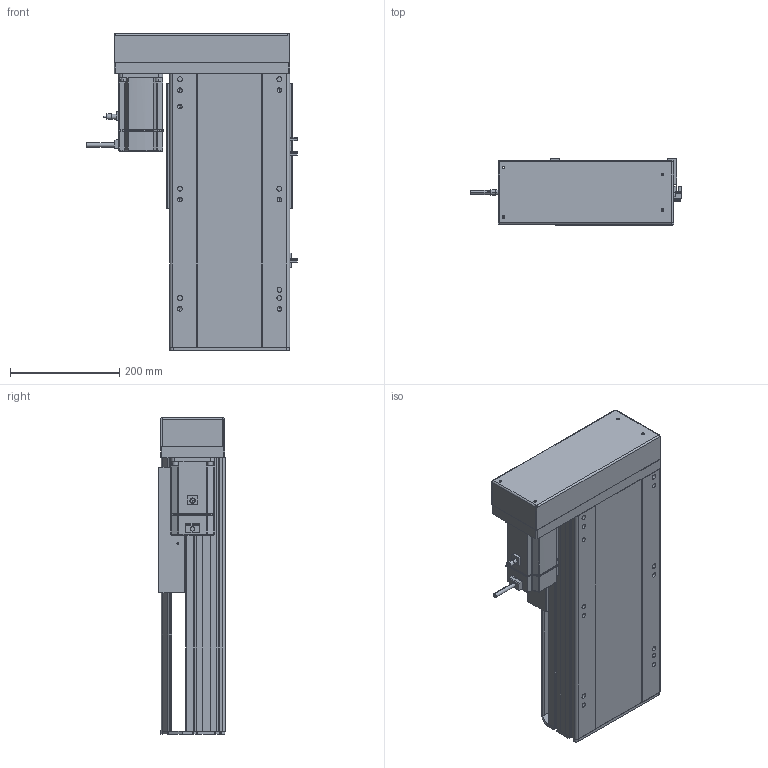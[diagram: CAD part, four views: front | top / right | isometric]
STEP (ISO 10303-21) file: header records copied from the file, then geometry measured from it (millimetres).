
FILE_DESCRIPTION (( 'STEP AP214' ), '1' );
FILE_NAME ('RTH22-XX-200-R-M75-C4.STEP', '2025-10-25T03:07:48', ( 'Microsoft' ), ( 'Microsoft' ), 'SwSTEP 2.0', 'SolidWorks 2018', '' );
FILE_SCHEMA (( 'AUTOMOTIVE_DESIGN' ));
Length unit declared in the file: millimetre
Products named in the file (10): N_RTH22-L-007奻裔^RTH22-XX-XX-R-M75-C4; N_RTH22-R-008-P75萇儂啣^RTH22-XX-XX-R-M75-C4; N_RTH22-GY-013外置感应片^RTH22-XX-XX-R-M75-C4; N_750W萇儂^RTH22-XX-XX-R-M75-C4; N_RTH22-GY-001耜裔^RTH22-XX-XX-R-M75-C4; N_RTH22-L-018裔赽^RTH22-XX-XX-R-M75-C4; N_RTH22-L-004-SFS25賑釱^RTH22-XX-XX-R-M75-C4; N_RTH22-L-011菁釱^RTH22-XX-XX-R-M75-C4; N_OMRON EE-SX672 传感器^RTH22-XX-XX-R-M75-C4; RTH22-XX-200-R-M75-C4
Assembly tree (11 placements, depth 2):
  RTH22-XX-200-R-M75-C4
    N_RTH22-L-011菁釱^RTH22-XX-XX-R-M75-C4
    N_RTH22-GY-001耜裔^RTH22-XX-XX-R-M75-C4
    N_750W萇儂^RTH22-XX-XX-R-M75-C4
    N_RTH22-R-008-P75萇儂啣^RTH22-XX-XX-R-M75-C4
    N_RTH22-L-007奻裔^RTH22-XX-XX-R-M75-C4
    N_OMRON EE-SX672 传感器^RTH22-XX-XX-R-M75-C4  x3
    N_RTH22-GY-013外置感应片^RTH22-XX-XX-R-M75-C4
    N_RTH22-L-004-SFS25賑釱^RTH22-XX-XX-R-M75-C4
    N_RTH22-L-018裔赽^RTH22-XX-XX-R-M75-C4
Bounding box: 384.7 x 122 x 579.7 mm (x, y, z)
Volume: 9584399.5 mm3; surface area: 1188464.8 mm2
Topology: 11 solids, 11 shells, 1520 faces, 4147 edges, 2683 vertices
Faces by surface type: plane 785, cylinder 414, bspline 279, cone 42
Entity records: 37335 total; most frequent: CARTESIAN_POINT 11610, ORIENTED_EDGE 5302, DIRECTION 4917, EDGE_CURVE 2651, VERTEX_POINT 1719, LINE 1681, VECTOR 1681, AXIS2_PLACEMENT_3D 1618
